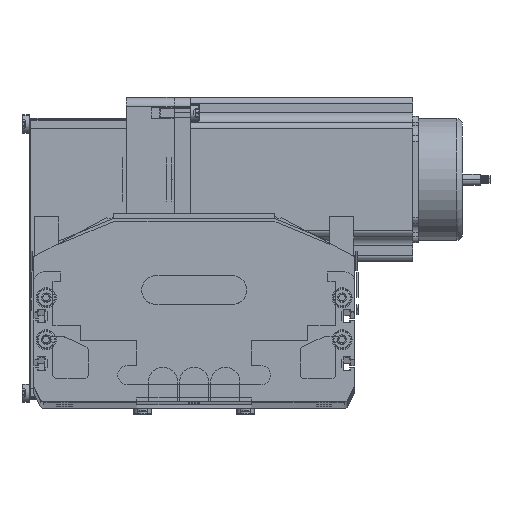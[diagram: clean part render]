
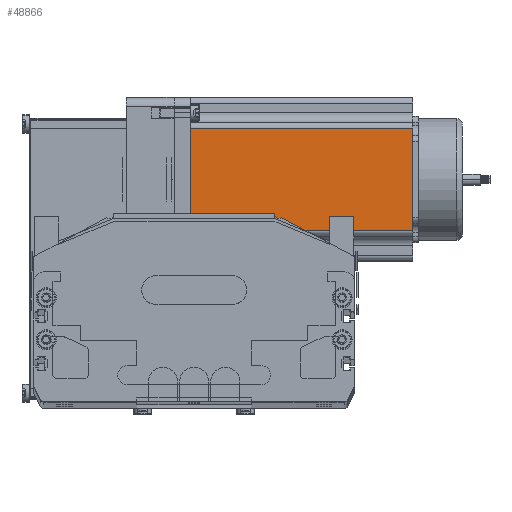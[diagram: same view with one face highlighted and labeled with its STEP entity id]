
A CAD part, top view. The second image highlights one B-rep face of the part: STEP entity #48866.
In plain terms, the highlighted planar face has unit normal (0, 0, 1) as drawn and (0, -1, 0) by its records, which use the part's own axes.
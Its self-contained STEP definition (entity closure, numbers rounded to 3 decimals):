
#22052 = CARTESIAN_POINT ( 'NONE',  ( 16.16, 0., 116.5 ) ) ;
#22055 = PLANE ( 'NONE',  #22078 ) ;
#22056 = CARTESIAN_POINT ( 'NONE',  ( 0., 0., 116.5 ) ) ;
#22073 = FACE_OUTER_BOUND ( 'NONE', #48926, .T. ) ;
#22078 = AXIS2_PLACEMENT_3D ( 'NONE', #22056, #22105, #22104 ) ;
#22095 = DIRECTION ( 'NONE',  ( 1., 0., 0. ) ) ;
#22096 = VECTOR ( 'NONE', #22095, 1000. ) ;
#22097 = CARTESIAN_POINT ( 'NONE',  ( 0., 0., 0. ) ) ;
#22098 = LINE ( 'NONE', #22097, #22096 ) ;
#22100 = DIRECTION ( 'NONE',  ( 0., 0., 1. ) ) ;
#22101 = VECTOR ( 'NONE', #22100, 1000. ) ;
#22102 = CARTESIAN_POINT ( 'NONE',  ( 69.74, 0., 116.5 ) ) ;
#22104 = DIRECTION ( 'NONE',  ( 0., 0., 1. ) ) ;
#22105 = DIRECTION ( 'NONE',  ( 0., 1., 0. ) ) ;
#22107 = LINE ( 'NONE', #22102, #22101 ) ;
#22134 = DIRECTION ( 'NONE',  ( 1., 0., 0. ) ) ;
#22135 = VECTOR ( 'NONE', #22134, 1000. ) ;
#22136 = CARTESIAN_POINT ( 'NONE',  ( 0., 0., 116.5 ) ) ;
#22137 = LINE ( 'NONE', #22136, #22135 ) ;
#22143 = CARTESIAN_POINT ( 'NONE',  ( 69.74, 0., 0. ) ) ;
#23709 = CARTESIAN_POINT ( 'NONE',  ( 69.74, 0., 116.5 ) ) ;
#23744 = DIRECTION ( 'NONE',  ( 0., 0., -1. ) ) ;
#23745 = VECTOR ( 'NONE', #23744, 1000. ) ;
#23749 = CARTESIAN_POINT ( 'NONE',  ( 16.16, 0., 116.5 ) ) ;
#23750 = LINE ( 'NONE', #23749, #23745 ) ;
#23806 = CARTESIAN_POINT ( 'NONE',  ( 16.16, 0., 0. ) ) ;
#48866 = ADVANCED_FACE ( 'NONE', ( #22073 ), #22055, .F. ) ;
#48867 = VERTEX_POINT ( 'NONE', #22052 ) ;
#48870 = ORIENTED_EDGE ( 'NONE', *, *, #48873, .T. ) ;
#48872 = EDGE_CURVE ( 'NONE', #48912, #49195, #22107, .T. ) ;
#48873 = EDGE_CURVE ( 'NONE', #49309, #48912, #22098, .T. ) ;
#48912 = VERTEX_POINT ( 'NONE', #22143 ) ;
#48918 = ORIENTED_EDGE ( 'NONE', *, *, #48872, .T. ) ;
#48921 = EDGE_CURVE ( 'NONE', #48867, #49195, #22137, .T. ) ;
#48926 = EDGE_LOOP ( 'NONE', ( #48870, #48918, #49209, #49216 ) ) ;
#49195 = VERTEX_POINT ( 'NONE', #23709 ) ;
#49209 = ORIENTED_EDGE ( 'NONE', *, *, #48921, .F. ) ;
#49216 = ORIENTED_EDGE ( 'NONE', *, *, #49217, .T. ) ;
#49217 = EDGE_CURVE ( 'NONE', #48867, #49309, #23750, .T. ) ;
#49309 = VERTEX_POINT ( 'NONE', #23806 ) ;
